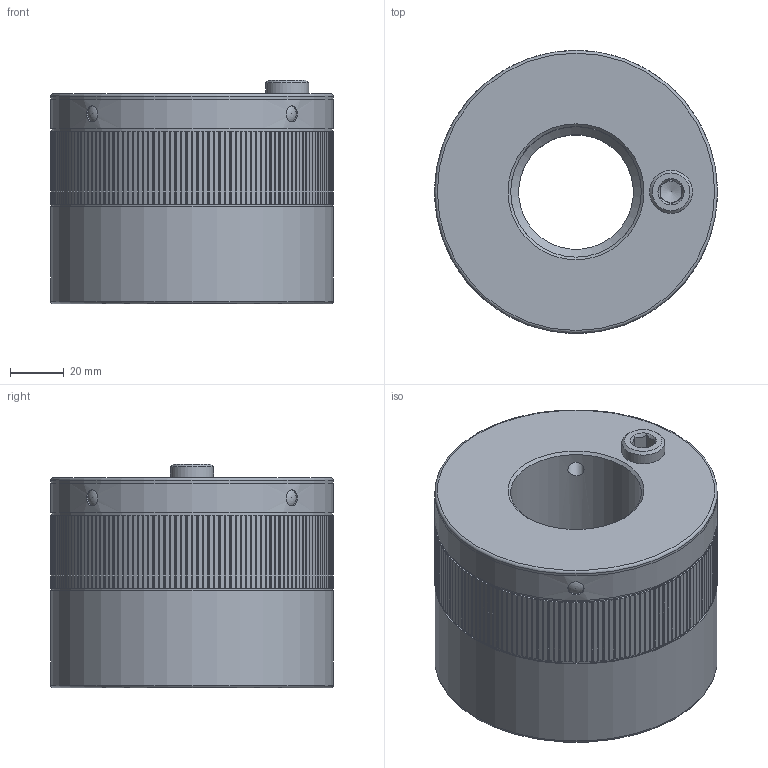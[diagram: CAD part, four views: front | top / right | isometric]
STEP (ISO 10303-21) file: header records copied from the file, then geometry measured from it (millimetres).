
FILE_DESCRIPTION(/* description */ ('Unknown','CAx-IF Rec.Pracs.---Representation and Presentation of Product Manufacturing Information (PMI)---4.0---2014-10-13','CAx-IF Rec.Pracs.---3D Tessellated Geometry---0.4---2014-09-14','2;1'),/* implementation_level */ '2;1');
FILE_NAME(/* name */ 'MDA 180_SW8_M48',/* time_stamp */ '2023-09-15T11:32:45+02:00',/* author */ ('Unknown'),/* organization */ ('Unknown'),/* preprocessor_version */ 'ST-DEVELOPER v18.102',/* originating_system */ 'Solid Edge',/* authorisation */ 'Unknown');
FILE_SCHEMA (('AP242_MANAGED_MODEL_BASED_3D_ENGINEERING_MIM_LF { 1 0 10303 442 1 1 4 }'));
Length unit declared in the file: millimetre
Products named in the file (7): 05933097; 43733051; 42231918; KT100003; 46431916; KT100869; 46331559
Assembly tree (9 placements, depth 2):
  05933097
    43733051
    42231918
    KT100003  x4
    46431916
    KT100869
    46331559
Bounding box: 105 x 105 x 83 mm (x, y, z)
Volume: 481765.3 mm3; surface area: 142798.2 mm2
Topology: 9 solids, 9 shells, 612 faces, 1743 edges, 1150 vertices
Faces by surface type: plane 354, cylinder 205, cone 31, torus 10, sphere 8, bspline 4
Full cylindrical faces by diameter (mm): 1.6 x1, 6 x12, 8 x1, 16 x2, 16.5 x1, 42.587 x1, 48.5 x1, 62 x3, 83.2 x1, 88 x1, 90 x1, 95.5 x1, 95.9 x1, 96 x3, 104 x2, 105 x3
Entity records: 19819 total; most frequent: CARTESIAN_POINT 3880, ORIENTED_EDGE 3220, DIRECTION 3218, EDGE_CURVE 1610, LINE 1154, VECTOR 1154, VERTEX_POINT 1106, AXIS2_PLACEMENT_3D 1032
